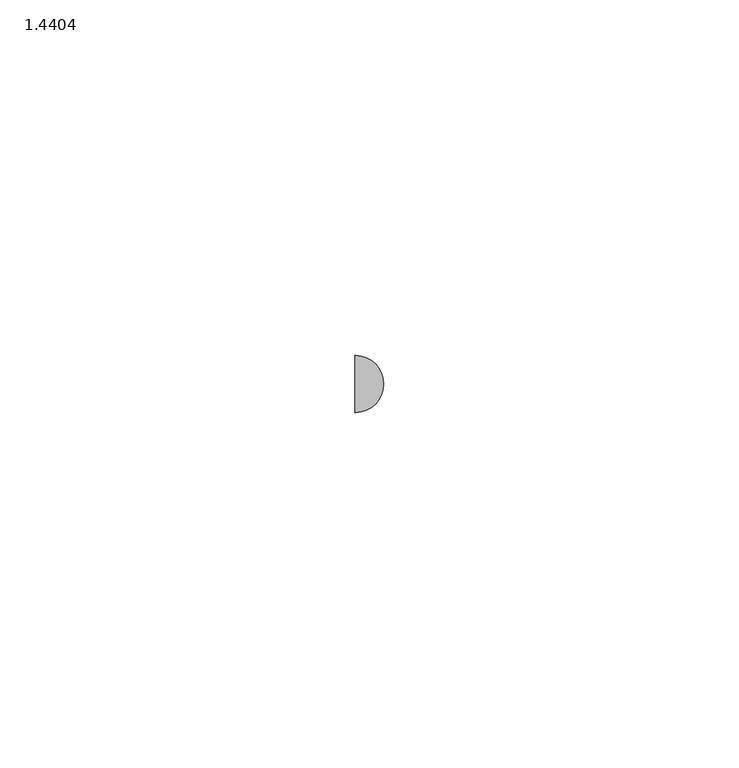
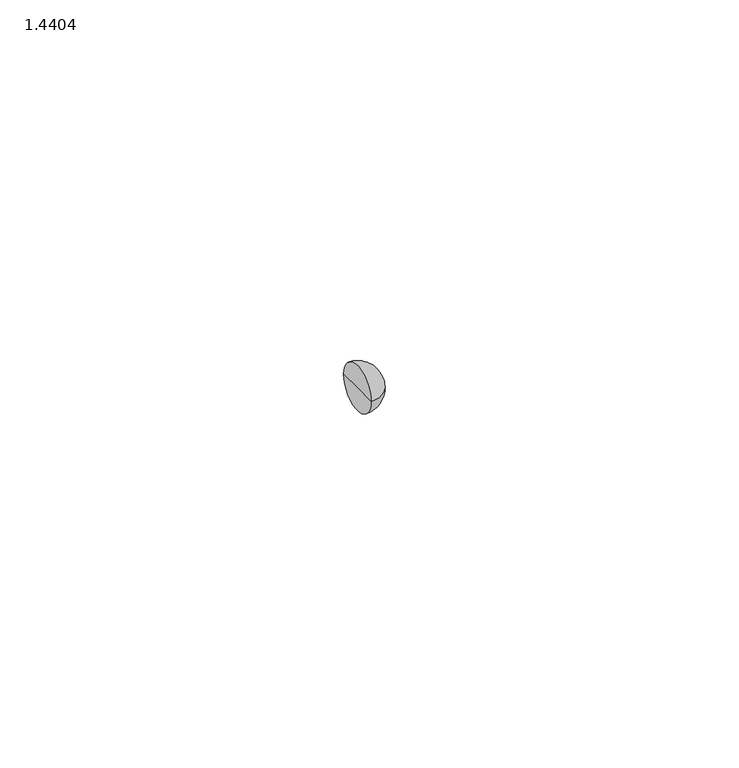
"""IFC4 building model written with IfcOpenShell, lengths in millimetres: pipe fitting geometry, PIF_ST_UN_ACO pipe multibranch_ACO : 1.4404."""

from ifc_helpers import new_model, si_unit, point, frame, origin, place, context, project, spatial, circle_curve, ellipse_curve, trimmed, source, transform, mapped, element, save
from ifc_brep_helpers import plane_surface, revolved_surface, advanced_brep


def pipe_fitting_1_4404_a0c9185b(model_context):
    return source(origin(), model_context, "Body", "AdvancedBrep", [
        advanced_brep(
        [(-119.0, 0.0, 0.0), (-119.0, 4.0095617, 0.0), (-119.0, -4.0095617, 0.0), (-114.9904383, 0.0, 0.0)],
        [
            (0, 1),
            (1, 2, circle_curve(frame((-119.0, 0.0, 0.0), z_axis=(-1.0, 0.0, 0.0), x_axis=(0.0, 1.0, 0.0)), 4.0095617)),
            (2, 0),
            (2, 1, circle_curve(frame((-119.0, 0.0, 0.0), z_axis=(-1.0, 0.0, 0.0), x_axis=(0.0, 1.0, 0.0)), 4.0095617)),
            (1, 3, circle_curve(frame((-119.0, 0.0, 0.0), z_axis=(0.0, 0.0, -1.0), x_axis=(1.0, 0.0, 0.0)), 4.0095617)),
            (3, 2, circle_curve(frame((-119.0, 0.0, 0.0), z_axis=(0.0, 0.0, -1.0), x_axis=(1.0, 0.0, 0.0)), 4.0095617)),
        ],
        [
            plane_surface(frame((-119.0, 0.0, 0.0), z_axis=(-1.0, 0.0, 0.0), x_axis=(0.0, 1.0, 0.0))),
            revolved_surface(trimmed(ellipse_curve(frame((-119.0, 0.0, 0.0), z_axis=(0.0, 0.0, 1.0), x_axis=(1.0, 0.0, 0.0)), 4.0095617, 4.0095617), [point((-114.9904383, 0.0, 0.0))], [point((-119.0, 4.0095617, 0.0))], True, "CARTESIAN"), (-119.0, 0.0, 0.0), (-1.0, 0.0, 0.0)),
        ],
        [
            (0, [[1, 2, 3]]),
            (0, [[-3, 4, -1]]),
            (1, [[-2, 5, 6]]),
            (1, [[-4, -6, -5]]),
        ],
    ),
    ])


if __name__ == "__main__":
    model = new_model("IFC4")
    model_context = context("Model", 3, world=origin())
    ifc_project = project(units=[si_unit("LENGTHUNIT", "METRE", prefix="MILLI")], contexts=[model_context])
    site = spatial("IfcSite", under=ifc_project)
    building = spatial("IfcBuilding", under=site)
    placement = place(None, origin())
    pipe_fitting_1_4404_shape = pipe_fitting_1_4404_a0c9185b(model_context)
    element("IfcPipeFitting", 1, ObjectType="PIF_ST_UN_ACO pipe multibranch_ACO : 1.4404", at=placement, inside=building, context=model_context, shape_type="MappedRepresentation", body=[
        mapped(pipe_fitting_1_4404_shape, transform((0.0, 0.0, 0.0), x_axis=(1.0, 0.0, 0.0), y_axis=(0.0, 1.0, 0.0), z_axis=(0.0, 0.0, 1.0))),
    ])
    save(model, "model.ifc")
